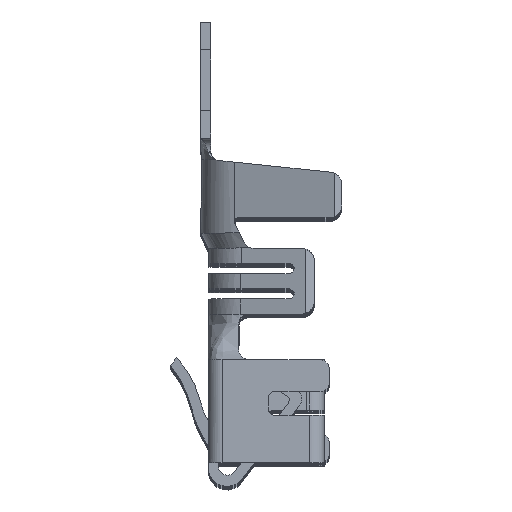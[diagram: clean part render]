
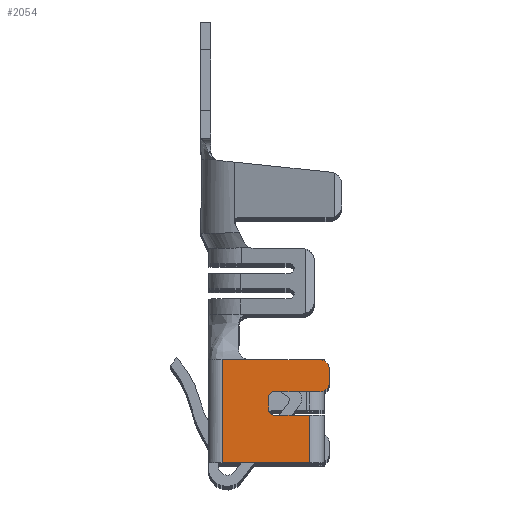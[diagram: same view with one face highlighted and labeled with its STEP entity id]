
A CAD part, top view. The second image highlights one B-rep face of the part: STEP entity #2054.
In plain terms, the highlighted planar face has unit normal (0, 0, 1).
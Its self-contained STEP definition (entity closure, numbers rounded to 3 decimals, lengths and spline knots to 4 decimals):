
#1113=CIRCLE('',#20271,0.2);
#1115=CIRCLE('',#20275,0.2);
#1117=CIRCLE('',#20279,0.1);
#1119=CIRCLE('',#20283,0.1);
#2054=ADVANCED_FACE('',(#3483),#2569,.T.);
#2569=PLANE('',#20330);
#3483=FACE_OUTER_BOUND('',#4449,.T.);
#4449=EDGE_LOOP('',(#13233,#13234,#13235,#13236,#13237,#13238,#13239,#13240,
#13241,#13242,#13243,#13244,#13245));
#5973=LINE('',#44909,#7550);
#5979=LINE('',#44926,#7556);
#5982=LINE('',#44936,#7559);
#5986=LINE('',#44948,#7563);
#5991=LINE('',#44961,#7568);
#5992=LINE('',#44965,#7569);
#5994=LINE('',#44971,#7571);
#6042=LINE('',#45157,#7619);
#6043=LINE('',#45159,#7620);
#7550=VECTOR('',#24527,1.);
#7556=VECTOR('',#24541,1.);
#7559=VECTOR('',#24552,1.);
#7563=VECTOR('',#24564,1.);
#7568=VECTOR('',#24577,1.);
#7569=VECTOR('',#24582,1.);
#7571=VECTOR('',#24588,1.);
#7619=VECTOR('',#24718,1.);
#7620=VECTOR('',#24719,1.);
#13233=ORIENTED_EDGE('',*,*,#18148,.F.);
#13234=ORIENTED_EDGE('',*,*,#18145,.T.);
#13235=ORIENTED_EDGE('',*,*,#18143,.F.);
#13236=ORIENTED_EDGE('',*,*,#18140,.T.);
#13237=ORIENTED_EDGE('',*,*,#18136,.F.);
#13238=ORIENTED_EDGE('',*,*,#18134,.T.);
#13239=ORIENTED_EDGE('',*,*,#18130,.F.);
#13240=ORIENTED_EDGE('',*,*,#18128,.T.);
#13241=ORIENTED_EDGE('',*,*,#18125,.T.);
#13242=ORIENTED_EDGE('',*,*,#18122,.T.);
#13243=ORIENTED_EDGE('',*,*,#18117,.T.);
#13244=ORIENTED_EDGE('',*,*,#18218,.T.);
#13245=ORIENTED_EDGE('',*,*,#18219,.F.);
#15274=VERTEX_POINT('',#44910);
#15275=VERTEX_POINT('',#44911);
#15279=VERTEX_POINT('',#44921);
#15281=VERTEX_POINT('',#44927);
#15283=VERTEX_POINT('',#44933);
#15284=VERTEX_POINT('',#44937);
#15287=VERTEX_POINT('',#44945);
#15288=VERTEX_POINT('',#44949);
#15291=VERTEX_POINT('',#44957);
#15292=VERTEX_POINT('',#44962);
#15293=VERTEX_POINT('',#44966);
#15295=VERTEX_POINT('',#44972);
#15338=VERTEX_POINT('',#45158);
#18117=EDGE_CURVE('',#15274,#15275,#5973,.T.);
#18122=EDGE_CURVE('',#15279,#15274,#1113,.T.);
#18125=EDGE_CURVE('',#15281,#15279,#5979,.T.);
#18128=EDGE_CURVE('',#15283,#15281,#1115,.T.);
#18130=EDGE_CURVE('',#15283,#15284,#5982,.T.);
#18134=EDGE_CURVE('',#15287,#15284,#1117,.T.);
#18136=EDGE_CURVE('',#15287,#15288,#5986,.T.);
#18140=EDGE_CURVE('',#15291,#15288,#1119,.T.);
#18143=EDGE_CURVE('',#15291,#15292,#5991,.T.);
#18145=EDGE_CURVE('',#15293,#15292,#5992,.T.);
#18148=EDGE_CURVE('',#15293,#15295,#5994,.T.);
#18218=EDGE_CURVE('',#15275,#15338,#6042,.T.);
#18219=EDGE_CURVE('',#15295,#15338,#6043,.T.);
#20271=AXIS2_PLACEMENT_3D('',#44920,#24535,#24536);
#20275=AXIS2_PLACEMENT_3D('',#44932,#24547,#24548);
#20279=AXIS2_PLACEMENT_3D('',#44944,#24559,#24560);
#20283=AXIS2_PLACEMENT_3D('',#44956,#24571,#24572);
#20330=AXIS2_PLACEMENT_3D('',#45160,#24720,#24721);
#24527=DIRECTION('',(-1.,0.,0.));
#24535=DIRECTION('',(0.,0.,1.));
#24536=DIRECTION('',(1.,0.,0.));
#24541=DIRECTION('',(0.,1.,0.));
#24547=DIRECTION('',(0.,0.,1.));
#24548=DIRECTION('',(1.,0.,0.));
#24552=DIRECTION('',(-1.,0.,0.));
#24559=DIRECTION('',(0.,0.,-1.));
#24560=DIRECTION('',(1.,0.,0.));
#24564=DIRECTION('',(0.,-1.,0.));
#24571=DIRECTION('',(0.,0.,-1.));
#24572=DIRECTION('',(1.,0.,0.));
#24577=DIRECTION('',(1.,0.,0.));
#24582=DIRECTION('',(0.,1.,0.));
#24588=DIRECTION('',(-1.,0.,0.));
#24718=DIRECTION('',(-1.,0.,0.));
#24719=DIRECTION('',(0.,1.,0.));
#24720=DIRECTION('',(0.,0.,1.));
#24721=DIRECTION('',(-1.,0.,0.));
#44909=CARTESIAN_POINT('',(0.8976,-0.9698,0.925));
#44910=CARTESIAN_POINT('',(2.8226,-0.9698,0.925));
#44911=CARTESIAN_POINT('',(1.4226,-0.9698,0.925));
#44920=CARTESIAN_POINT('',(2.8226,-1.1698,0.925));
#44921=CARTESIAN_POINT('',(3.0226,-1.1698,0.925));
#44926=CARTESIAN_POINT('',(3.0226,-3.4798,0.925));
#44927=CARTESIAN_POINT('',(3.0226,-1.4098,0.925));
#44932=CARTESIAN_POINT('',(2.8226,-1.4098,0.925));
#44933=CARTESIAN_POINT('',(2.8226,-1.6098,0.925));
#44936=CARTESIAN_POINT('',(1.8226,-1.6098,0.925));
#44937=CARTESIAN_POINT('',(1.9226,-1.6098,0.925));
#44944=CARTESIAN_POINT('',(1.9226,-1.7098,0.925));
#44945=CARTESIAN_POINT('',(1.8226,-1.7098,0.925));
#44948=CARTESIAN_POINT('',(1.8226,-2.0698,0.925));
#44949=CARTESIAN_POINT('',(1.8226,-1.9698,0.925));
#44956=CARTESIAN_POINT('',(1.9226,-1.9698,0.925));
#44957=CARTESIAN_POINT('',(1.9226,-2.0698,0.925));
#44961=CARTESIAN_POINT('',(3.0226,-2.0698,0.925));
#44962=CARTESIAN_POINT('',(2.6226,-2.0698,0.925));
#44965=CARTESIAN_POINT('',(2.6226,-2.0698,0.925));
#44966=CARTESIAN_POINT('',(2.6226,-3.0098,0.925));
#44971=CARTESIAN_POINT('',(0.8976,-3.0098,0.925));
#44972=CARTESIAN_POINT('',(0.8976,-3.0098,0.925));
#45157=CARTESIAN_POINT('',(0.8976,-0.9698,0.925));
#45158=CARTESIAN_POINT('',(0.8976,-0.9698,0.925));
#45159=CARTESIAN_POINT('',(0.8976,-3.4798,0.925));
#45160=CARTESIAN_POINT('',(0.8976,-3.4798,0.925));
